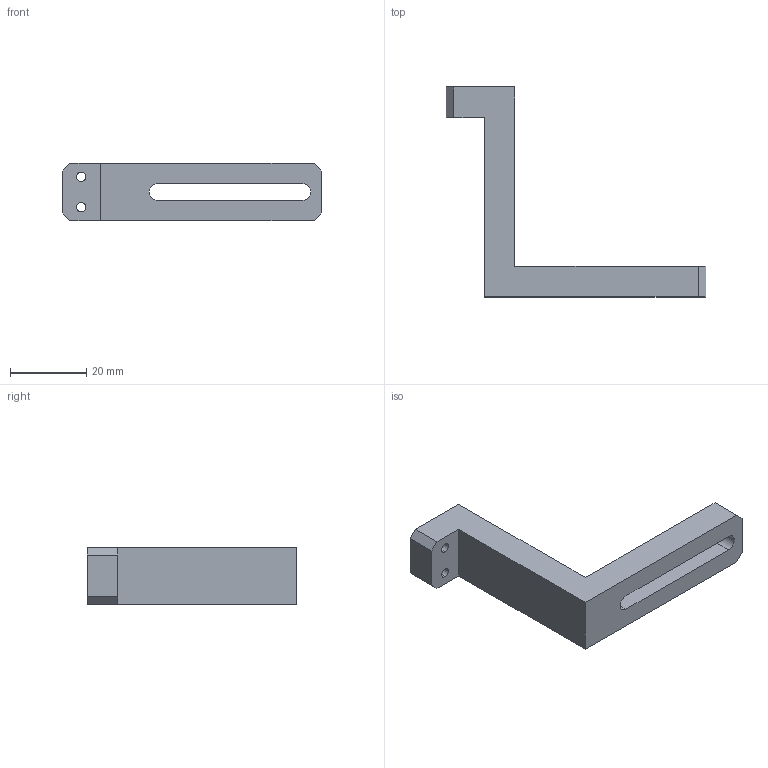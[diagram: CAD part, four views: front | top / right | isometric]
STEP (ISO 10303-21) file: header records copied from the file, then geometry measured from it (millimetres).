
FILE_DESCRIPTION (( 'STEP AP214' ), '1' );
FILE_NAME ('GZ30.03_V1传感器支架.STEP', '2021-06-03T03:52:43', ( '微软中国' ), ( 'Microsoft' ), 'SwSTEP 2.0', 'SolidWorks 2017', '' );
FILE_SCHEMA (( 'AUTOMOTIVE_DESIGN' ));
Length unit declared in the file: millimetre
Products named in the file (1): GZ30.03_V1換覜ん盓殤
Bounding box: 68 x 55 x 15 mm (x, y, z)
Volume: 12236.6 mm3; surface area: 5941.3 mm2
Topology: 1 solids, 1 shells, 23 faces, 63 edges, 42 vertices
Faces by surface type: plane 16, cylinder 7
Entity records: 821 total; most frequent: CARTESIAN_POINT 129, ORIENTED_EDGE 126, DIRECTION 125, EDGE_CURVE 63, VECTOR 49, LINE 49, VERTEX_POINT 42, AXIS2_PLACEMENT_3D 38
